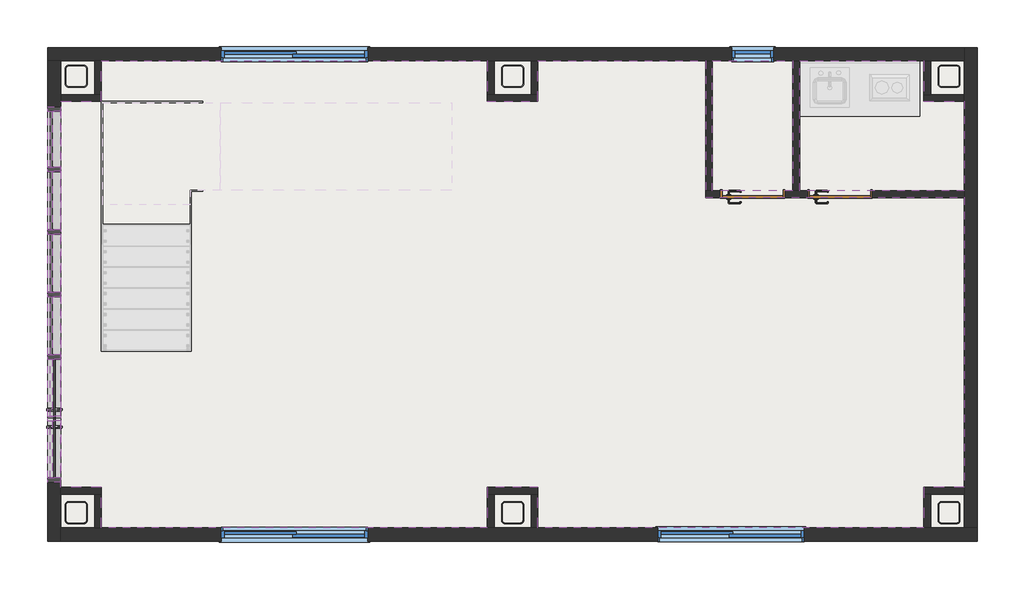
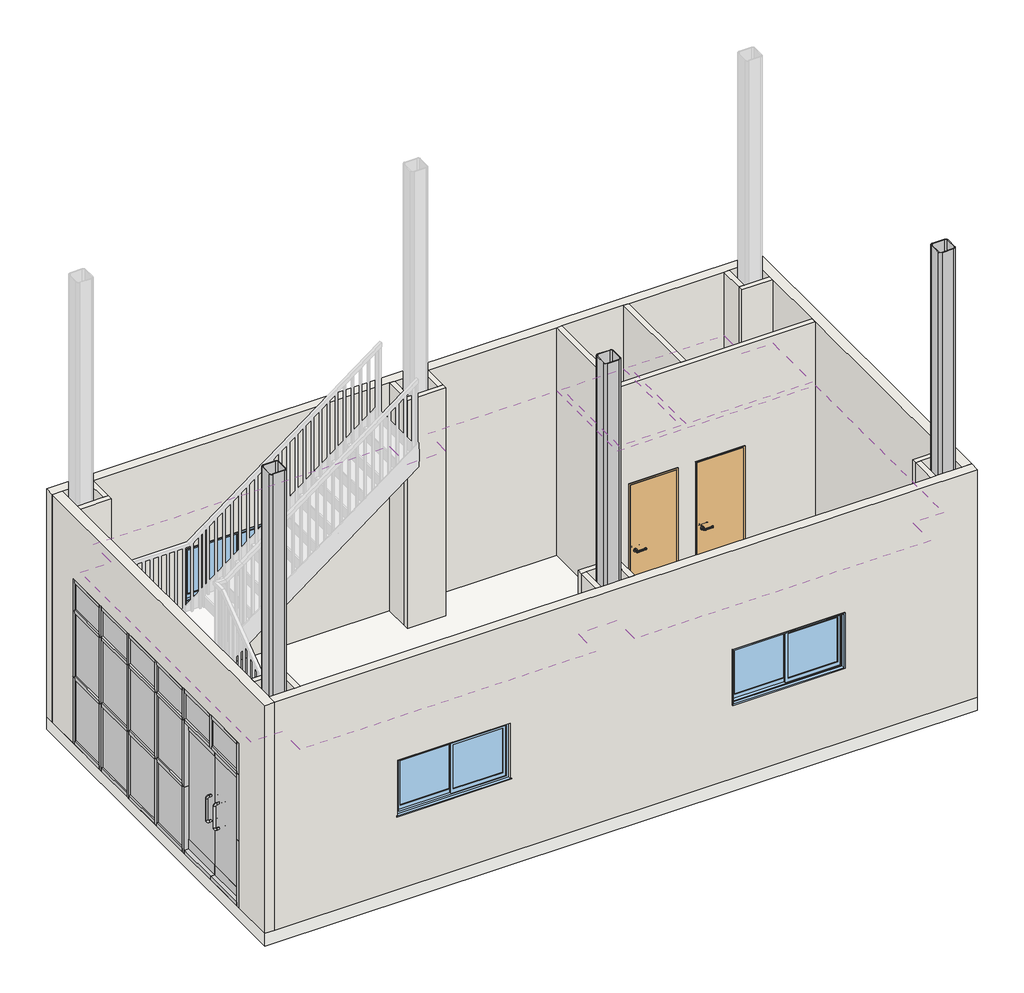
# One storey, part 1 of 2: 41 members, 21 walls, 15 plates, 4 windows, 3 columns, 3 coverings, 2 doors, 1 slab.
"""IFC4 building model written with IfcOpenShell, lengths in millimetres."""

from ifc_helpers import new_model, si_unit, frame, origin, origin_with_axes, place, context, project, spatial, polyline, outline, extrude, faceted_brep, transform, mapped, element, save
from components import hss250x250x12_d809ddac, w700h2000_2a992a34, member_50x150mm_a0e2e66f, member_50x150mm_a9c68ae1, member_50x150mm_62bde7b1, member_50x150mm_43fc7b63, member_50x150mm_86d21357, member_50x150mm_22f77a7a, member_50x150mm_8a69f4a4, member_50x150mm_b3666dbd, member_50x150mm_1a36453b, member_50x150mm_5157afd8, member_50x150mm_37d6beb1, member_50x150mm_f4543df4, plate_bb3d00ed, plate_81b017a3, plate_3e90128c, plate_3f01d40e, plate_8868ab24, plate_6b8e4332, plate_e66cd56a, plate_cf903d6a, w0400h0800_0b9f01bb, w1600h0800_d7cd19be

model = new_model("IFC4")

# Units and contexts
model_context = context("Model", 3, world=origin())
ifc_project = project(units=[si_unit("LENGTHUNIT", "METRE", prefix="MILLI")], contexts=[model_context])

# Site, building, storey
site = spatial("IfcSite", under=ifc_project)
building = spatial("IfcBuilding", under=site)
storey = spatial("IfcBuildingStorey", under=building, Name="1階", Elevation=200.0)

# Columns
placement = place(None, origin())
hss250x250x12_shape = hss250x250x12_d809ddac(model_context)
element("IfcColumn", 1, ObjectType="正方型鋼管-柱 : HSS250x250x12", at=placement, inside=storey, context=model_context, shape_type="MappedRepresentation", body=[
    mapped(hss250x250x12_shape, transform((-5047.3880564, -2413.9617267, 0.0), x_axis=(-1.0, 0.0, 0.0), y_axis=(0.0, -1.0, 0.0), z_axis=(0.0, 0.0, 1.0))),
])
element("IfcColumn", 2, ObjectType="正方型鋼管-柱 : HSS250x250x12", at=placement, inside=storey, context=model_context, shape_type="MappedRepresentation", body=[
    mapped(hss250x250x12_shape, transform((-47.3880564, -2413.9617267, 0.0), x_axis=(-1.0, 0.0, 0.0), y_axis=(0.0, -1.0, 0.0), z_axis=(0.0, 0.0, 1.0))),
])
element("IfcColumn", 3, ObjectType="正方型鋼管-柱 : HSS250x250x12", at=placement, inside=storey, context=model_context, shape_type="MappedRepresentation", body=[
    mapped(hss250x250x12_shape, transform((4952.6119436, -2413.9617267, 0.0), x_axis=(-1.0, 0.0, 0.0), y_axis=(0.0, -1.0, 0.0), z_axis=(0.0, 0.0, 1.0))),
])

# Coverings
element("IfcCovering", 4, ObjectType="グリッド 600x600mm", at=placement, inside=storey, context=model_context, shape_type="SweptSolid", body=[
    extrude(outline(polyline([(-4757.8880564, 2296.5382733), (-4757.8880564, 2761.0382733), (-336.8880564, 2761.0382733), (-336.8880564, 2296.5382733), (242.1119436, 2296.5382733), (242.1119436, 2761.0382733), (2163.1119436, 2761.0382733), (2163.1119436, 1196.5382733), (5127.6119436, 1196.5382733), (5127.6119436, -2124.4617267), (4663.1119436, -2124.4617267), (4663.1119436, -2588.9617267), (242.1119436, -2588.9617267), (242.1119436, -2124.4617267), (-336.8880564, -2124.4617267), (-336.8880564, -2588.9617267), (-4757.8880564, -2588.9617267), (-4757.8880564, -2124.4617267), (-5222.3880564, -2124.4617267), (-5222.3880564, 2296.5382733), (-4757.8880564, 2296.5382733)])), frame((0.0, 0.0, 2800.0), z_axis=(0.0, 0.0, 1.0), x_axis=(1.0, 0.0, 0.0)), (0.0, 0.0, 1.0), 52.0),
])
element("IfcCovering", 5, ObjectType="グリッド 600x600mm", at=placement, inside=storey, context=model_context, shape_type="SweptSolid", body=[
    extrude(outline(polyline([(2242.1119436, 2761.0382733), (3163.1119436, 2761.0382733), (3163.1119436, 1275.5382733), (2242.1119436, 1275.5382733), (2242.1119436, 2761.0382733)])), frame((0.0, 0.0, 2800.0), z_axis=(0.0, 0.0, 1.0), x_axis=(1.0, 0.0, 0.0)), (0.0, 0.0, 1.0), 52.0),
])
element("IfcCovering", 6, ObjectType="グリッド 600x600mm", at=placement, inside=storey, context=model_context, shape_type="SweptSolid", body=[
    extrude(outline(polyline([(3242.1119436, 1275.5382733), (3242.1119436, 2761.0382733), (4663.1119436, 2761.0382733), (4663.1119436, 2296.5382733), (5127.6119436, 2296.5382733), (5127.6119436, 1275.5382733), (3242.1119436, 1275.5382733)])), frame((0.0, 0.0, 2800.0), z_axis=(0.0, 0.0, 1.0), x_axis=(1.0, 0.0, 0.0)), (0.0, 0.0, 1.0), 52.0),
])

# Doors
w700h2000_shape = w700h2000_2a992a34(model_context)
element("IfcDoor", 7, ObjectType="片開き : w700h2000", at=placement, inside=storey, context=model_context, shape_type="MappedRepresentation", body=[
    mapped(w700h2000_shape, transform((2702.6119436, 1236.0382733, 200.0), x_axis=(1.0, 0.0, 0.0), y_axis=(0.0, 1.0, 0.0), z_axis=(0.0, 0.0, 1.0))),
])
element("IfcDoor", 8, ObjectType="片開き : w700h2000", at=placement, inside=storey, context=model_context, shape_type="MappedRepresentation", body=[
    mapped(w700h2000_shape, transform((3702.6119436, 1236.0382733, 200.0), x_axis=(1.0, 0.0, 0.0), y_axis=(0.0, 1.0, 0.0), z_axis=(0.0, 0.0, 1.0))),
])

# Members
member_50x150mm_shape = member_50x150mm_a0e2e66f(model_context)
element("IfcMember", 9, ObjectType="長方形マリオン : 50x150mm", at=placement, inside=storey, context=model_context, shape_type="MappedRepresentation", body=[
    mapped(member_50x150mm_shape, transform((-5297.3880564, 2186.0382733, 2800.0), x_axis=(0.0, 0.0, 1.0), y_axis=(1.0, 0.0, 0.0), z_axis=(0.0, 1.0, 0.0))),
])
member_50x150mm_2_shape = member_50x150mm_a9c68ae1(model_context)
element("IfcMember", 10, ObjectType="長方形マリオン : 50x150mm", at=placement, inside=storey, context=model_context, shape_type="MappedRepresentation", body=[
    mapped(member_50x150mm_2_shape, transform((-5297.3880564, 86.0382733, 200.0), x_axis=(0.0, 1.0, 0.0), y_axis=(1.0, 0.0, 0.0), z_axis=(0.0, 0.0, -1.0))),
])
element("IfcMember", 11, ObjectType="長方形マリオン : 50x150mm", at=placement, inside=storey, context=model_context, shape_type="MappedRepresentation", body=[
    mapped(member_50x150mm_2_shape, transform((-5297.3880564, 1519.3716066, 200.0), x_axis=(0.0, 1.0, 0.0), y_axis=(1.0, 0.0, 0.0), z_axis=(0.0, 0.0, -1.0))),
])
element("IfcMember", 12, ObjectType="長方形マリオン : 50x150mm", at=placement, inside=storey, context=model_context, shape_type="MappedRepresentation", body=[
    mapped(member_50x150mm_2_shape, transform((-5297.3880564, 802.7049399, 200.0), x_axis=(0.0, 1.0, 0.0), y_axis=(1.0, 0.0, 0.0), z_axis=(0.0, 0.0, -1.0))),
])
element("IfcMember", 13, ObjectType="長方形マリオン : 50x150mm", at=placement, inside=storey, context=model_context, shape_type="MappedRepresentation", body=[
    mapped(member_50x150mm_2_shape, transform((-5297.3880564, -630.6283934, 200.0), x_axis=(0.0, 1.0, 0.0), y_axis=(1.0, 0.0, 0.0), z_axis=(0.0, 0.0, -1.0))),
])
member_50x150mm_3_shape = member_50x150mm_62bde7b1(model_context)
element("IfcMember", 14, ObjectType="長方形マリオン : 50x150mm", at=placement, inside=storey, context=model_context, shape_type="MappedRepresentation", body=[
    mapped(member_50x150mm_3_shape, transform((-5297.3880564, 2186.0382733, 2300.0), x_axis=(0.0, 0.0, 1.0), y_axis=(1.0, 0.0, 0.0), z_axis=(0.0, 1.0, 0.0))),
])
element("IfcMember", 15, ObjectType="長方形マリオン : 50x150mm", at=placement, inside=storey, context=model_context, shape_type="MappedRepresentation", body=[
    mapped(member_50x150mm_3_shape, transform((-5297.3880564, 2186.0382733, 1250.0), x_axis=(0.0, 0.0, 1.0), y_axis=(1.0, 0.0, 0.0), z_axis=(0.0, 1.0, 0.0))),
])
member_50x150mm_4_shape = member_50x150mm_43fc7b63(model_context)
element("IfcMember", 16, ObjectType="長方形マリオン : 50x150mm", at=placement, inside=storey, context=model_context, shape_type="MappedRepresentation", body=[
    mapped(member_50x150mm_4_shape, transform((-5297.3880564, 777.7049399, 2300.0), x_axis=(0.0, 0.0, 1.0), y_axis=(1.0, 0.0, 0.0), z_axis=(0.0, 1.0, 0.0))),
])
element("IfcMember", 17, ObjectType="長方形マリオン : 50x150mm", at=placement, inside=storey, context=model_context, shape_type="MappedRepresentation", body=[
    mapped(member_50x150mm_4_shape, transform((-5297.3880564, 1494.3716066, 2300.0), x_axis=(0.0, 0.0, 1.0), y_axis=(1.0, 0.0, 0.0), z_axis=(0.0, 1.0, 0.0))),
])
element("IfcMember", 18, ObjectType="長方形マリオン : 50x150mm", at=placement, inside=storey, context=model_context, shape_type="MappedRepresentation", body=[
    mapped(member_50x150mm_4_shape, transform((-5297.3880564, 61.0382733, 2300.0), x_axis=(0.0, 0.0, 1.0), y_axis=(1.0, 0.0, 0.0), z_axis=(0.0, 1.0, 0.0))),
])
element("IfcMember", 19, ObjectType="長方形マリオン : 50x150mm", at=placement, inside=storey, context=model_context, shape_type="MappedRepresentation", body=[
    mapped(member_50x150mm_4_shape, transform((-5297.3880564, 777.7049399, 1250.0), x_axis=(0.0, 0.0, 1.0), y_axis=(1.0, 0.0, 0.0), z_axis=(0.0, 1.0, 0.0))),
])
element("IfcMember", 20, ObjectType="長方形マリオン : 50x150mm", at=placement, inside=storey, context=model_context, shape_type="MappedRepresentation", body=[
    mapped(member_50x150mm_4_shape, transform((-5297.3880564, 1494.3716066, 1250.0), x_axis=(0.0, 0.0, 1.0), y_axis=(1.0, 0.0, 0.0), z_axis=(0.0, 1.0, 0.0))),
])
element("IfcMember", 21, ObjectType="長方形マリオン : 50x150mm", at=placement, inside=storey, context=model_context, shape_type="MappedRepresentation", body=[
    mapped(member_50x150mm_4_shape, transform((-5297.3880564, 61.0382733, 1250.0), x_axis=(0.0, 0.0, 1.0), y_axis=(1.0, 0.0, 0.0), z_axis=(0.0, 1.0, 0.0))),
])
member_50x150mm_5_shape = member_50x150mm_86d21357(model_context)
element("IfcMember", 22, ObjectType="長方形マリオン : 50x150mm", at=placement, inside=storey, context=model_context, shape_type="MappedRepresentation", body=[
    mapped(member_50x150mm_5_shape, transform((-5297.3880564, 111.0382733, 200.0), x_axis=(0.0, 0.0, -1.0), y_axis=(1.0, 0.0, 0.0), z_axis=(0.0, -1.0, 0.0))),
])
element("IfcMember", 23, ObjectType="長方形マリオン : 50x150mm", at=placement, inside=storey, context=model_context, shape_type="MappedRepresentation", body=[
    mapped(member_50x150mm_5_shape, transform((-5297.3880564, 827.7049399, 200.0), x_axis=(0.0, 0.0, -1.0), y_axis=(1.0, 0.0, 0.0), z_axis=(0.0, -1.0, 0.0))),
])
element("IfcMember", 24, ObjectType="長方形マリオン : 50x150mm", at=placement, inside=storey, context=model_context, shape_type="MappedRepresentation", body=[
    mapped(member_50x150mm_5_shape, transform((-5297.3880564, -605.6283934, 200.0), x_axis=(0.0, 0.0, -1.0), y_axis=(1.0, 0.0, 0.0), z_axis=(0.0, -1.0, 0.0))),
])
element("IfcMember", 25, ObjectType="長方形マリオン : 50x150mm", at=placement, inside=storey, context=model_context, shape_type="MappedRepresentation", body=[
    mapped(member_50x150mm_shape, transform((-5297.3880564, 1544.3716066, 200.0), x_axis=(0.0, 0.0, -1.0), y_axis=(1.0, 0.0, 0.0), z_axis=(0.0, -1.0, 0.0))),
])
element("IfcMember", 26, ObjectType="長方形マリオン : 50x150mm", at=placement, inside=storey, context=model_context, shape_type="MappedRepresentation", body=[
    mapped(member_50x150mm_5_shape, transform((-5297.3880564, 61.0382733, 2800.0), x_axis=(0.0, 0.0, 1.0), y_axis=(1.0, 0.0, 0.0), z_axis=(0.0, 1.0, 0.0))),
])
element("IfcMember", 27, ObjectType="長方形マリオン : 50x150mm", at=placement, inside=storey, context=model_context, shape_type="MappedRepresentation", body=[
    mapped(member_50x150mm_5_shape, transform((-5297.3880564, 1494.3716066, 2800.0), x_axis=(0.0, 0.0, 1.0), y_axis=(1.0, 0.0, 0.0), z_axis=(0.0, 1.0, 0.0))),
])
element("IfcMember", 28, ObjectType="長方形マリオン : 50x150mm", at=placement, inside=storey, context=model_context, shape_type="MappedRepresentation", body=[
    mapped(member_50x150mm_5_shape, transform((-5297.3880564, 777.7049399, 2800.0), x_axis=(0.0, 0.0, 1.0), y_axis=(1.0, 0.0, 0.0), z_axis=(0.0, 1.0, 0.0))),
])
member_50x150mm_6_shape = member_50x150mm_22f77a7a(model_context)
element("IfcMember", 29, ObjectType="長方形マリオン : 50x150mm", at=placement, inside=storey, context=model_context, shape_type="MappedRepresentation", body=[
    mapped(member_50x150mm_6_shape, transform((-5297.3880564, 86.0382733, 2300.0), x_axis=(0.0, 1.0, 0.0), y_axis=(1.0, 0.0, 0.0), z_axis=(0.0, 0.0, -1.0))),
])
element("IfcMember", 30, ObjectType="長方形マリオン : 50x150mm", at=placement, inside=storey, context=model_context, shape_type="MappedRepresentation", body=[
    mapped(member_50x150mm_6_shape, transform((-5297.3880564, 1519.3716066, 2300.0), x_axis=(0.0, 1.0, 0.0), y_axis=(1.0, 0.0, 0.0), z_axis=(0.0, 0.0, -1.0))),
])
element("IfcMember", 31, ObjectType="長方形マリオン : 50x150mm", at=placement, inside=storey, context=model_context, shape_type="MappedRepresentation", body=[
    mapped(member_50x150mm_6_shape, transform((-5297.3880564, 802.7049399, 2300.0), x_axis=(0.0, 1.0, 0.0), y_axis=(1.0, 0.0, 0.0), z_axis=(0.0, 0.0, -1.0))),
])
element("IfcMember", 32, ObjectType="長方形マリオン : 50x150mm", at=placement, inside=storey, context=model_context, shape_type="MappedRepresentation", body=[
    mapped(member_50x150mm_6_shape, transform((-5297.3880564, -630.6283934, 2300.0), x_axis=(0.0, 1.0, 0.0), y_axis=(1.0, 0.0, 0.0), z_axis=(0.0, 0.0, -1.0))),
])
element("IfcMember", 33, ObjectType="長方形マリオン : 50x150mm", at=placement, inside=storey, context=model_context, shape_type="MappedRepresentation", body=[
    mapped(member_50x150mm_2_shape, transform((-5297.3880564, 86.0382733, 1250.0), x_axis=(0.0, 1.0, 0.0), y_axis=(1.0, 0.0, 0.0), z_axis=(0.0, 0.0, -1.0))),
])
element("IfcMember", 34, ObjectType="長方形マリオン : 50x150mm", at=placement, inside=storey, context=model_context, shape_type="MappedRepresentation", body=[
    mapped(member_50x150mm_2_shape, transform((-5297.3880564, 1519.3716066, 1250.0), x_axis=(0.0, 1.0, 0.0), y_axis=(1.0, 0.0, 0.0), z_axis=(0.0, 0.0, -1.0))),
])
element("IfcMember", 35, ObjectType="長方形マリオン : 50x150mm", at=placement, inside=storey, context=model_context, shape_type="MappedRepresentation", body=[
    mapped(member_50x150mm_2_shape, transform((-5297.3880564, 802.7049399, 1250.0), x_axis=(0.0, 1.0, 0.0), y_axis=(1.0, 0.0, 0.0), z_axis=(0.0, 0.0, -1.0))),
])
element("IfcMember", 36, ObjectType="長方形マリオン : 50x150mm", at=placement, inside=storey, context=model_context, shape_type="MappedRepresentation", body=[
    mapped(member_50x150mm_2_shape, transform((-5297.3880564, -630.6283934, 1250.0), x_axis=(0.0, 1.0, 0.0), y_axis=(1.0, 0.0, 0.0), z_axis=(0.0, 0.0, -1.0))),
])
member_50x150mm_7_shape = member_50x150mm_8a69f4a4(model_context)
element("IfcMember", 37, ObjectType="長方形マリオン : 50x150mm", at=placement, inside=storey, context=model_context, shape_type="MappedRepresentation", body=[
    mapped(member_50x150mm_7_shape, transform((-5297.3880564, -1334.7950601, 2275.0), x_axis=(0.0, 1.0, 0.0), y_axis=(1.0, 0.0, 0.0), z_axis=(0.0, 0.0, -1.0))),
])
member_50x150mm_8_shape = member_50x150mm_b3666dbd(model_context)
element("IfcMember", 38, ObjectType="長方形マリオン : 50x150mm", at=placement, inside=storey, context=model_context, shape_type="MappedRepresentation", body=[
    mapped(member_50x150mm_8_shape, transform((-5297.3880564, -2063.9617267, 2800.0), x_axis=(0.0, -1.0, 0.0), y_axis=(1.0, 0.0, 0.0), z_axis=(0.0, 0.0, 1.0))),
])
member_50x150mm_9_shape = member_50x150mm_1a36453b(model_context)
element("IfcMember", 39, ObjectType="長方形マリオン : 50x150mm", at=placement, inside=storey, context=model_context, shape_type="MappedRepresentation", body=[
    mapped(member_50x150mm_9_shape, transform((-5297.3880564, 2236.0382733, 200.0), x_axis=(0.0, 1.0, 0.0), y_axis=(1.0, 0.0, 0.0), z_axis=(0.0, 0.0, -1.0))),
])
element("IfcMember", 40, ObjectType="長方形マリオン : 50x150mm", at=placement, inside=storey, context=model_context, shape_type="MappedRepresentation", body=[
    mapped(member_50x150mm_8_shape, transform((-5297.3880564, 2236.0382733, 2300.0), x_axis=(0.0, 1.0, 0.0), y_axis=(1.0, 0.0, 0.0), z_axis=(0.0, 0.0, -1.0))),
])
element("IfcMember", 41, ObjectType="長方形マリオン : 50x150mm", at=placement, inside=storey, context=model_context, shape_type="MappedRepresentation", body=[
    mapped(member_50x150mm_9_shape, transform((-5297.3880564, 2236.0382733, 1250.0), x_axis=(0.0, 1.0, 0.0), y_axis=(1.0, 0.0, 0.0), z_axis=(0.0, 0.0, -1.0))),
])
element("IfcMember", 42, ObjectType="長方形マリオン : 50x150mm", at=placement, inside=storey, context=model_context, shape_type="MappedRepresentation", body=[
    mapped(member_50x150mm_9_shape, transform((-5297.3880564, -2063.9617267, 2300.0), x_axis=(0.0, -1.0, 0.0), y_axis=(1.0, 0.0, 0.0), z_axis=(0.0, 0.0, 1.0))),
])
element("IfcMember", 43, ObjectType="長方形マリオン : 50x150mm", at=placement, inside=storey, context=model_context, shape_type="MappedRepresentation", body=[
    mapped(member_50x150mm_9_shape, transform((-5297.3880564, -2063.9617267, 1250.0), x_axis=(0.0, -1.0, 0.0), y_axis=(1.0, 0.0, 0.0), z_axis=(0.0, 0.0, 1.0))),
])
member_50x150mm_10_shape = member_50x150mm_5157afd8(model_context)
element("IfcMember", 44, ObjectType="長方形マリオン : 50x150mm", at=placement, inside=storey, context=model_context, shape_type="MappedRepresentation", body=[
    mapped(member_50x150mm_10_shape, transform((-5297.3880564, -2013.9617267, 200.0), x_axis=(0.0, 0.0, -1.0), y_axis=(1.0, 0.0, 0.0), z_axis=(0.0, -1.0, 0.0))),
])
member_50x150mm_11_shape = member_50x150mm_37d6beb1(model_context)
element("IfcMember", 45, ObjectType="長方形マリオン : 50x150mm", at=placement, inside=storey, context=model_context, shape_type="MappedRepresentation", body=[
    mapped(member_50x150mm_11_shape, transform((-5297.3880564, -1359.7950601, 2300.0), x_axis=(0.0, 0.0, 1.0), y_axis=(1.0, 0.0, 0.0), z_axis=(0.0, 1.0, 0.0))),
])
element("IfcMember", 46, ObjectType="長方形マリオン : 50x150mm", at=placement, inside=storey, context=model_context, shape_type="MappedRepresentation", body=[
    mapped(member_50x150mm_11_shape, transform((-5297.3880564, -655.6283934, 2300.0), x_axis=(0.0, 0.0, 1.0), y_axis=(1.0, 0.0, 0.0), z_axis=(0.0, 1.0, 0.0))),
])
element("IfcMember", 47, ObjectType="長方形マリオン : 50x150mm", at=placement, inside=storey, context=model_context, shape_type="MappedRepresentation", body=[
    mapped(member_50x150mm_10_shape, transform((-5297.3880564, -1334.7950601, 200.0), x_axis=(0.0, 0.0, -1.0), y_axis=(1.0, 0.0, 0.0), z_axis=(0.0, -1.0, 0.0))),
])
member_50x150mm_12_shape = member_50x150mm_f4543df4(model_context)
element("IfcMember", 48, ObjectType="長方形マリオン : 50x150mm", at=placement, inside=storey, context=model_context, shape_type="MappedRepresentation", body=[
    mapped(member_50x150mm_12_shape, transform((-5297.3880564, -655.6283934, 2800.0), x_axis=(0.0, 0.0, 1.0), y_axis=(1.0, 0.0, 0.0), z_axis=(0.0, 1.0, 0.0))),
])
element("IfcMember", 49, ObjectType="長方形マリオン : 50x150mm", at=placement, inside=storey, context=model_context, shape_type="MappedRepresentation", body=[
    mapped(member_50x150mm_12_shape, transform((-5297.3880564, -1359.7950601, 2800.0), x_axis=(0.0, 0.0, 1.0), y_axis=(1.0, 0.0, 0.0), z_axis=(0.0, 1.0, 0.0))),
])

# Plates
plate_shape = plate_bb3d00ed(model_context)
element("IfcPlate", 50, ObjectType="システム パネル1 : ガラス", at=placement, inside=storey, context=model_context, shape_type="MappedRepresentation", body=[
    mapped(plate_shape, transform((-5297.3880564, 444.3716066, 250.0), x_axis=(0.0, 1.0, 0.0), y_axis=(-1.0, 0.0, 0.0), z_axis=(0.0, 0.0, 1.0))),
])
element("IfcPlate", 51, ObjectType="システム パネル1 : ガラス", at=placement, inside=storey, context=model_context, shape_type="MappedRepresentation", body=[
    mapped(plate_shape, transform((-5297.3880564, 1161.0382733, 250.0), x_axis=(0.0, 1.0, 0.0), y_axis=(-1.0, 0.0, 0.0), z_axis=(0.0, 0.0, 1.0))),
])
element("IfcPlate", 52, ObjectType="システム パネル1 : ガラス", at=placement, inside=storey, context=model_context, shape_type="MappedRepresentation", body=[
    mapped(plate_shape, transform((-5297.3880564, -272.2950601, 250.0), x_axis=(0.0, 1.0, 0.0), y_axis=(-1.0, 0.0, 0.0), z_axis=(0.0, 0.0, 1.0))),
])
plate_2_shape = plate_81b017a3(model_context)
element("IfcPlate", 53, ObjectType="システム パネル1 : ガラス", at=placement, inside=storey, context=model_context, shape_type="MappedRepresentation", body=[
    mapped(plate_2_shape, transform((-5297.3880564, 1865.2049399, 250.0), x_axis=(0.0, 1.0, 0.0), y_axis=(-1.0, 0.0, 0.0), z_axis=(0.0, 0.0, 1.0))),
])
plate_3_shape = plate_3e90128c(model_context)
element("IfcPlate", 54, ObjectType="システム パネル1 : ガラス", at=placement, inside=storey, context=model_context, shape_type="MappedRepresentation", body=[
    mapped(plate_3_shape, transform((-5297.3880564, 1865.2049399, 2325.0), x_axis=(0.0, 1.0, 0.0), y_axis=(-1.0, 0.0, 0.0), z_axis=(0.0, 0.0, 1.0))),
])
plate_4_shape = plate_3f01d40e(model_context)
element("IfcPlate", 55, ObjectType="システム パネル1 : ガラス", at=placement, inside=storey, context=model_context, shape_type="MappedRepresentation", body=[
    mapped(plate_4_shape, transform((-5297.3880564, -272.2950601, 2325.0), x_axis=(0.0, 1.0, 0.0), y_axis=(-1.0, 0.0, 0.0), z_axis=(0.0, 0.0, 1.0))),
])
element("IfcPlate", 56, ObjectType="システム パネル1 : ガラス", at=placement, inside=storey, context=model_context, shape_type="MappedRepresentation", body=[
    mapped(plate_4_shape, transform((-5297.3880564, 444.3716066, 2325.0), x_axis=(0.0, 1.0, 0.0), y_axis=(-1.0, 0.0, 0.0), z_axis=(0.0, 0.0, 1.0))),
])
element("IfcPlate", 57, ObjectType="システム パネル1 : ガラス", at=placement, inside=storey, context=model_context, shape_type="MappedRepresentation", body=[
    mapped(plate_4_shape, transform((-5297.3880564, 1161.0382733, 2325.0), x_axis=(0.0, 1.0, 0.0), y_axis=(-1.0, 0.0, 0.0), z_axis=(0.0, 0.0, 1.0))),
])
plate_5_shape = plate_8868ab24(model_context)
element("IfcPlate", 58, ObjectType="システム パネル1 : ガラス", at=placement, inside=storey, context=model_context, shape_type="MappedRepresentation", body=[
    mapped(plate_5_shape, transform((-5297.3880564, -272.2950601, 1275.0), x_axis=(0.0, 1.0, 0.0), y_axis=(-1.0, 0.0, 0.0), z_axis=(0.0, 0.0, 1.0))),
])
element("IfcPlate", 59, ObjectType="システム パネル1 : ガラス", at=placement, inside=storey, context=model_context, shape_type="MappedRepresentation", body=[
    mapped(plate_5_shape, transform((-5297.3880564, 444.3716066, 1275.0), x_axis=(0.0, 1.0, 0.0), y_axis=(-1.0, 0.0, 0.0), z_axis=(0.0, 0.0, 1.0))),
])
element("IfcPlate", 60, ObjectType="システム パネル1 : ガラス", at=placement, inside=storey, context=model_context, shape_type="MappedRepresentation", body=[
    mapped(plate_5_shape, transform((-5297.3880564, 1161.0382733, 1275.0), x_axis=(0.0, 1.0, 0.0), y_axis=(-1.0, 0.0, 0.0), z_axis=(0.0, 0.0, 1.0))),
])
plate_6_shape = plate_6b8e4332(model_context)
element("IfcPlate", 61, ObjectType="システム パネル1 : ガラス", at=placement, inside=storey, context=model_context, shape_type="MappedRepresentation", body=[
    mapped(plate_6_shape, transform((-5297.3880564, 1865.2049399, 1275.0), x_axis=(0.0, 1.0, 0.0), y_axis=(-1.0, 0.0, 0.0), z_axis=(0.0, 0.0, 1.0))),
])
plate_7_shape = plate_e66cd56a(model_context)
element("IfcPlate", 62, ObjectType="両開き - ヒンジ2 : ガラス パネル", at=placement, inside=storey, context=model_context, shape_type="MappedRepresentation", body=[
    mapped(plate_7_shape, transform((-5297.3880564, -1334.7950601, 250.0), x_axis=(0.0, 1.0, 0.0), y_axis=(-1.0, 0.0, 0.0), z_axis=(0.0, 0.0, 1.0))),
])
plate_8_shape = plate_cf903d6a(model_context)
element("IfcPlate", 63, ObjectType="システム パネル1 : ガラス", at=placement, inside=storey, context=model_context, shape_type="MappedRepresentation", body=[
    mapped(plate_8_shape, transform((-5297.3880564, -1686.8783934, 2325.0), x_axis=(0.0, 1.0, 0.0), y_axis=(-1.0, 0.0, 0.0), z_axis=(0.0, 0.0, 1.0))),
])
element("IfcPlate", 64, ObjectType="システム パネル1 : ガラス", at=placement, inside=storey, context=model_context, shape_type="MappedRepresentation", body=[
    mapped(plate_8_shape, transform((-5297.3880564, -982.7117267, 2325.0), x_axis=(0.0, 1.0, 0.0), y_axis=(-1.0, 0.0, 0.0), z_axis=(0.0, 0.0, 1.0))),
])

# Slab
element("IfcSlab", 65, ObjectType="一般 200 mm", at=placement, inside=storey, context=model_context, shape_type="SweptSolid", body=[
    extrude(outline(polyline([(5277.6119436, 2911.0382733), (5277.6119436, -2738.9617267), (-5372.3880564, -2738.9617267), (-5372.3880564, 2911.0382733), (5277.6119436, 2911.0382733)])), origin_with_axes(), (0.0, 0.0, 1.0), 200.0),
])

# Walls
element("IfcWall", 66, ObjectType="標準-150mm", at=placement, inside=storey, context=model_context, shape_type="Brep", body=[
    faceted_brep([(-5372.3880564, 2761.0382733, 200.0), (-5222.3880564, 2761.0382733, 200.0), (-4836.8880564, 2761.0382733, 200.0), (-4757.8880564, 2761.0382733, 200.0), (-336.8880564, 2761.0382733, 200.0), (-257.8880564, 2761.0382733, 200.0), (163.1119436, 2761.0382733, 200.0), (242.1119436, 2761.0382733, 200.0), (2163.1119436, 2761.0382733, 200.0), (2242.1119436, 2761.0382733, 200.0), (3163.1119436, 2761.0382733, 200.0), (3242.1119436, 2761.0382733, 200.0), (4663.1119436, 2761.0382733, 200.0), (4742.1119436, 2761.0382733, 200.0), (5127.6119436, 2761.0382733, 200.0), (5127.6119436, 2761.0382733, 3800.0), (4742.1119436, 2761.0382733, 3800.0), (4663.1119436, 2761.0382733, 3800.0), (3242.1119436, 2761.0382733, 3800.0), (3163.1119436, 2761.0382733, 3800.0), (2242.1119436, 2761.0382733, 3800.0), (2163.1119436, 2761.0382733, 3800.0), (242.1119436, 2761.0382733, 3800.0), (163.1119436, 2761.0382733, 3800.0), (-257.8880564, 2761.0382733, 3800.0), (-336.8880564, 2761.0382733, 3800.0), (-4757.8880564, 2761.0382733, 3800.0), (-4836.8880564, 2761.0382733, 3800.0), (-5222.3880564, 2761.0382733, 3800.0), (-5372.3880564, 2761.0382733, 3800.0), (-1707.3880564, 2761.0382733, 2240.0), (-1707.3880564, 2761.0382733, 1360.0), (-3387.3880564, 2761.0382733, 1360.0), (-3387.3880564, 2761.0382733, 2240.0), (2942.6119436, 2761.0382733, 2240.0), (2942.6119436, 2761.0382733, 1360.0), (2462.6119436, 2761.0382733, 1360.0), (2462.6119436, 2761.0382733, 2240.0), (-5372.3880564, 2911.0382733, 200.0), (-5372.3880564, 2911.0382733, 3800.0), (5127.6119436, 2911.0382733, 3800.0), (5127.6119436, 2911.0382733, 200.0), (-1707.3880564, 2911.0382733, 2240.0), (-3387.3880564, 2911.0382733, 2240.0), (-3387.3880564, 2911.0382733, 1360.0), (-1707.3880564, 2911.0382733, 1360.0), (2942.6119436, 2911.0382733, 2240.0), (2462.6119436, 2911.0382733, 2240.0), (2462.6119436, 2911.0382733, 1360.0), (2942.6119436, 2911.0382733, 1360.0)], [[[0, 1, 2, 3, 4, 5, 6, 7, 8, 9, 10, 11, 12, 13, 14, 15, 16, 17, 18, 19, 20, 21, 22, 23, 24, 25, 26, 27, 28, 29], [30, 31, 32, 33], [34, 35, 36, 37]], [[38, 39, 40, 41], [42, 43, 44, 45], [46, 47, 48, 49]], [[14, 13, 12, 11, 10, 9, 8, 7, 6, 5, 4, 3, 2, 1, 0, 38, 41]], [[29, 28, 27, 26, 25, 24, 23, 22, 21, 20, 19, 18, 17, 16, 15, 40, 39]], [[0, 29, 39, 38]], [[15, 14, 41, 40]], [[31, 30, 42, 45]], [[32, 31, 45, 44]], [[33, 32, 44, 43]], [[30, 33, 43, 42]], [[35, 34, 46, 49]], [[36, 35, 49, 48]], [[37, 36, 48, 47]], [[34, 37, 47, 46]]]),
])
element("IfcWall", 67, ObjectType="標準-150mm", at=placement, inside=storey, context=model_context, shape_type="Brep", body=[
    faceted_brep([(-5222.3880564, 2761.0382733, 3800.0), (-5222.3880564, 2375.5382733, 3800.0), (-5222.3880564, 2296.5382733, 3800.0), (-5222.3880564, -2124.4617267, 3800.0), (-5222.3880564, -2203.4617267, 3800.0), (-5222.3880564, -2588.9617267, 3800.0), (-5222.3880564, -2738.9617267, 3800.0), (-5222.3880564, -2738.9617267, 200.0), (-5222.3880564, -2588.9617267, 200.0), (-5222.3880564, -2203.4617267, 200.0), (-5222.3880564, -2124.4617267, 200.0), (-5222.3880564, -2063.9617267, 200.0), (-5222.3880564, -2063.9617267, 2800.0), (-5222.3880564, 2236.0382733, 2800.0), (-5222.3880564, 2236.0382733, 200.0), (-5222.3880564, 2296.5382733, 200.0), (-5222.3880564, 2375.5382733, 200.0), (-5222.3880564, 2761.0382733, 200.0), (-5372.3880564, -2738.9617267, 3800.0), (-5372.3880564, 2761.0382733, 3800.0), (-5372.3880564, 2761.0382733, 200.0), (-5372.3880564, 2236.0382733, 200.0), (-5372.3880564, 2236.0382733, 2800.0), (-5372.3880564, -2063.9617267, 2800.0), (-5372.3880564, -2063.9617267, 200.0), (-5372.3880564, -2738.9617267, 200.0)], [[[0, 1, 2, 3, 4, 5, 6, 7, 8, 9, 10, 11, 12, 13, 14, 15, 16, 17]], [[18, 19, 20, 21, 22, 23, 24, 25]], [[7, 25, 24, 11, 10, 9, 8]], [[20, 17, 16, 15, 14, 21]], [[6, 5, 4, 3, 2, 1, 0, 19, 18]], [[7, 6, 18, 25]], [[0, 17, 20, 19]], [[23, 12, 11, 24]], [[12, 23, 22, 13]], [[13, 22, 21, 14]]]),
])
element("IfcWall", 68, ObjectType="標準-150mm", at=placement, inside=storey, context=model_context, shape_type="Brep", body=[
    faceted_brep([(5277.6119436, -2588.9617267, 200.0), (5127.6119436, -2588.9617267, 200.0), (4742.1119436, -2588.9617267, 200.0), (4663.1119436, -2588.9617267, 200.0), (242.1119436, -2588.9617267, 200.0), (163.1119436, -2588.9617267, 200.0), (-257.8880564, -2588.9617267, 200.0), (-336.8880564, -2588.9617267, 200.0), (-4757.8880564, -2588.9617267, 200.0), (-4836.8880564, -2588.9617267, 200.0), (-5222.3880564, -2588.9617267, 200.0), (-5222.3880564, -2588.9617267, 3800.0), (-4836.8880564, -2588.9617267, 3800.0), (-4757.8880564, -2588.9617267, 3800.0), (-336.8880564, -2588.9617267, 3800.0), (-257.8880564, -2588.9617267, 3800.0), (163.1119436, -2588.9617267, 3800.0), (242.1119436, -2588.9617267, 3800.0), (4663.1119436, -2588.9617267, 3800.0), (4742.1119436, -2588.9617267, 3800.0), (5127.6119436, -2588.9617267, 3800.0), (5277.6119436, -2588.9617267, 3800.0), (-3387.3880564, -2588.9617267, 2240.0), (-3387.3880564, -2588.9617267, 1360.0), (-1707.3880564, -2588.9617267, 1360.0), (-1707.3880564, -2588.9617267, 2240.0), (3292.6119436, -2588.9617267, 2240.0), (1612.6119436, -2588.9617267, 2240.0), (1612.6119436, -2588.9617267, 1360.0), (3292.6119436, -2588.9617267, 1360.0), (5277.6119436, -2738.9617267, 200.0), (5277.6119436, -2738.9617267, 3800.0), (-5222.3880564, -2738.9617267, 3800.0), (-5222.3880564, -2738.9617267, 200.0), (-3387.3880564, -2738.9617267, 2240.0), (-1707.3880564, -2738.9617267, 2240.0), (-1707.3880564, -2738.9617267, 1360.0), (-3387.3880564, -2738.9617267, 1360.0), (3292.6119436, -2738.9617267, 2240.0), (3292.6119436, -2738.9617267, 1360.0), (1612.6119436, -2738.9617267, 1360.0), (1612.6119436, -2738.9617267, 2240.0)], [[[0, 1, 2, 3, 4, 5, 6, 7, 8, 9, 10, 11, 12, 13, 14, 15, 16, 17, 18, 19, 20, 21], [22, 23, 24, 25], [26, 27, 28, 29]], [[30, 31, 32, 33], [34, 35, 36, 37], [38, 39, 40, 41]], [[10, 9, 8, 7, 6, 5, 4, 3, 2, 1, 0, 30, 33]], [[21, 20, 19, 18, 17, 16, 15, 14, 13, 12, 11, 32, 31]], [[0, 21, 31, 30]], [[11, 10, 33, 32]], [[23, 22, 34, 37]], [[24, 23, 37, 36]], [[25, 24, 36, 35]], [[22, 25, 35, 34]], [[39, 38, 26, 29]], [[40, 39, 29, 28]], [[41, 40, 28, 27]], [[38, 41, 27, 26]]]),
])
element("IfcWall", 69, ObjectType="標準-150mm", at=placement, inside=storey, context=model_context, shape_type="Brep", body=[
    faceted_brep([(5127.6119436, 2911.0382733, 200.0), (5127.6119436, 2761.0382733, 200.0), (5127.6119436, 2375.5382733, 200.0), (5127.6119436, 2296.5382733, 200.0), (5127.6119436, 1275.5382733, 200.0), (5127.6119436, 1196.5382733, 200.0), (5127.6119436, -2124.4617267, 200.0), (5127.6119436, -2203.4617267, 200.0), (5127.6119436, -2588.9617267, 200.0), (5127.6119436, -2588.9617267, 3800.0), (5127.6119436, -2203.4617267, 3800.0), (5127.6119436, -2124.4617267, 3800.0), (5127.6119436, 1196.5382733, 3800.0), (5127.6119436, 1275.5382733, 3800.0), (5127.6119436, 2296.5382733, 3800.0), (5127.6119436, 2375.5382733, 3800.0), (5127.6119436, 2761.0382733, 3800.0), (5127.6119436, 2911.0382733, 3800.0), (5277.6119436, 2911.0382733, 200.0), (5277.6119436, 2911.0382733, 3800.0), (5277.6119436, -2588.9617267, 3800.0), (5277.6119436, -2588.9617267, 200.0)], [[[0, 1, 2, 3, 4, 5, 6, 7, 8, 9, 10, 11, 12, 13, 14, 15, 16, 17]], [[18, 19, 20, 21]], [[8, 7, 6, 5, 4, 3, 2, 1, 0, 18, 21]], [[17, 16, 15, 14, 13, 12, 11, 10, 9, 20, 19]], [[0, 17, 19, 18]], [[9, 8, 21, 20]]]),
])
element("IfcWall", 70, ObjectType="内壁-79mm 間仕切り(1時間)", at=placement, inside=storey, context=model_context, shape_type="SweptSolid", body=[
    extrude(outline(polyline([(-4836.8880564, 2375.5382733), (-4836.8880564, 2761.0382733), (-4757.8880564, 2761.0382733), (-4757.8880564, 2375.5382733), (-4836.8880564, 2375.5382733)])), frame((0.0, 0.0, 200.0), z_axis=(0.0, 0.0, 1.0), x_axis=(1.0, 0.0, 0.0)), (0.0, 0.0, 1.0), 3600.0),
])
element("IfcWall", 71, ObjectType="内壁-79mm 間仕切り(1時間)", at=placement, inside=storey, context=model_context, shape_type="Brep", body=[
    faceted_brep([(-4757.8880564, 2375.5382733, 200.0), (-4836.8880564, 2375.5382733, 200.0), (-5222.3880564, 2375.5382733, 200.0), (-5222.3880564, 2375.5382733, 3800.0), (-4836.8880564, 2375.5382733, 3800.0), (-4757.8880564, 2375.5382733, 3800.0), (-4757.8880564, 2296.5382733, 200.0), (-4757.8880564, 2296.5382733, 3800.0), (-5222.3880564, 2296.5382733, 3800.0), (-5222.3880564, 2296.5382733, 200.0)], [[[0, 1, 2, 3, 4, 5]], [[6, 7, 8, 9]], [[2, 1, 0, 6, 9]], [[5, 4, 3, 8, 7]], [[0, 5, 7, 6]], [[3, 2, 9, 8]]]),
])
element("IfcWall", 72, ObjectType="内壁-79mm 間仕切り(1時間)", at=placement, inside=storey, context=model_context, shape_type="SweptSolid", body=[
    extrude(outline(polyline([(163.1119436, 2375.5382733), (163.1119436, 2761.0382733), (242.1119436, 2761.0382733), (242.1119436, 2375.5382733), (163.1119436, 2375.5382733)])), frame((0.0, 0.0, 200.0), z_axis=(0.0, 0.0, 1.0), x_axis=(1.0, 0.0, 0.0)), (0.0, 0.0, 1.0), 3600.0),
])
element("IfcWall", 73, ObjectType="内壁-79mm 間仕切り(1時間)", at=placement, inside=storey, context=model_context, shape_type="Brep", body=[
    faceted_brep([(242.1119436, 2375.5382733, 200.0), (163.1119436, 2375.5382733, 200.0), (-257.8880564, 2375.5382733, 200.0), (-336.8880564, 2375.5382733, 200.0), (-336.8880564, 2375.5382733, 3800.0), (-257.8880564, 2375.5382733, 3800.0), (163.1119436, 2375.5382733, 3800.0), (242.1119436, 2375.5382733, 3800.0), (242.1119436, 2296.5382733, 200.0), (242.1119436, 2296.5382733, 3800.0), (-336.8880564, 2296.5382733, 3800.0), (-336.8880564, 2296.5382733, 200.0)], [[[0, 1, 2, 3, 4, 5, 6, 7]], [[8, 9, 10, 11]], [[3, 2, 1, 0, 8, 11]], [[7, 6, 5, 4, 10, 9]], [[0, 7, 9, 8]], [[4, 3, 11, 10]]]),
])
element("IfcWall", 74, ObjectType="内壁-79mm 間仕切り(1時間)", at=placement, inside=storey, context=model_context, shape_type="SweptSolid", body=[
    extrude(outline(polyline([(-257.8880564, 2761.0382733), (-257.8880564, 2375.5382733), (-336.8880564, 2375.5382733), (-336.8880564, 2761.0382733), (-257.8880564, 2761.0382733)])), frame((0.0, 0.0, 200.0), z_axis=(0.0, 0.0, 1.0), x_axis=(1.0, 0.0, 0.0)), (0.0, 0.0, 1.0), 3600.0),
])
element("IfcWall", 75, ObjectType="内壁-79mm 間仕切り(1時間)", at=placement, inside=storey, context=model_context, shape_type="SweptSolid", body=[
    extrude(outline(polyline([(4663.1119436, 2375.5382733), (4663.1119436, 2761.0382733), (4742.1119436, 2761.0382733), (4742.1119436, 2375.5382733), (4663.1119436, 2375.5382733)])), frame((0.0, 0.0, 200.0), z_axis=(0.0, 0.0, 1.0), x_axis=(1.0, 0.0, 0.0)), (0.0, 0.0, 1.0), 3600.0),
])
element("IfcWall", 76, ObjectType="内壁-79mm 間仕切り(1時間)", at=placement, inside=storey, context=model_context, shape_type="Brep", body=[
    faceted_brep([(4663.1119436, 2296.5382733, 200.0), (5127.6119436, 2296.5382733, 200.0), (5127.6119436, 2296.5382733, 3800.0), (4663.1119436, 2296.5382733, 3800.0), (4663.1119436, 2375.5382733, 200.0), (4663.1119436, 2375.5382733, 3800.0), (4742.1119436, 2375.5382733, 3800.0), (5127.6119436, 2375.5382733, 3800.0), (5127.6119436, 2375.5382733, 200.0), (4742.1119436, 2375.5382733, 200.0)], [[[0, 1, 2, 3]], [[4, 5, 6, 7, 8, 9]], [[1, 0, 4, 9, 8]], [[3, 2, 7, 6, 5]], [[0, 3, 5, 4]], [[2, 1, 8, 7]]]),
])
element("IfcWall", 77, ObjectType="内壁-79mm 間仕切り(1時間)", at=placement, inside=storey, context=model_context, shape_type="SweptSolid", body=[
    extrude(outline(polyline([(-4757.8880564, -2203.4617267), (-4757.8880564, -2588.9617267), (-4836.8880564, -2588.9617267), (-4836.8880564, -2203.4617267), (-4757.8880564, -2203.4617267)])), frame((0.0, 0.0, 200.0), z_axis=(0.0, 0.0, 1.0), x_axis=(1.0, 0.0, 0.0)), (0.0, 0.0, 1.0), 3600.0),
])
element("IfcWall", 78, ObjectType="内壁-79mm 間仕切り(1時間)", at=placement, inside=storey, context=model_context, shape_type="Brep", body=[
    faceted_brep([(-4757.8880564, -2124.4617267, 200.0), (-5222.3880564, -2124.4617267, 200.0), (-5222.3880564, -2124.4617267, 3800.0), (-4757.8880564, -2124.4617267, 3800.0), (-4757.8880564, -2203.4617267, 200.0), (-4757.8880564, -2203.4617267, 3800.0), (-4836.8880564, -2203.4617267, 3800.0), (-5222.3880564, -2203.4617267, 3800.0), (-5222.3880564, -2203.4617267, 200.0), (-4836.8880564, -2203.4617267, 200.0)], [[[0, 1, 2, 3]], [[4, 5, 6, 7, 8, 9]], [[1, 0, 4, 9, 8]], [[3, 2, 7, 6, 5]], [[0, 3, 5, 4]], [[2, 1, 8, 7]]]),
])
element("IfcWall", 79, ObjectType="内壁-79mm 間仕切り(1時間)", at=placement, inside=storey, context=model_context, shape_type="SweptSolid", body=[
    extrude(outline(polyline([(242.1119436, -2203.4617267), (242.1119436, -2588.9617267), (163.1119436, -2588.9617267), (163.1119436, -2203.4617267), (242.1119436, -2203.4617267)])), frame((0.0, 0.0, 200.0), z_axis=(0.0, 0.0, 1.0), x_axis=(1.0, 0.0, 0.0)), (0.0, 0.0, 1.0), 3600.0),
])
element("IfcWall", 80, ObjectType="内壁-79mm 間仕切り(1時間)", at=placement, inside=storey, context=model_context, shape_type="Brep", body=[
    faceted_brep([(242.1119436, -2124.4617267, 200.0), (-336.8880564, -2124.4617267, 200.0), (-336.8880564, -2124.4617267, 3800.0), (242.1119436, -2124.4617267, 3800.0), (242.1119436, -2203.4617267, 200.0), (242.1119436, -2203.4617267, 3800.0), (163.1119436, -2203.4617267, 3800.0), (-257.8880564, -2203.4617267, 3800.0), (-336.8880564, -2203.4617267, 3800.0), (-336.8880564, -2203.4617267, 200.0), (-257.8880564, -2203.4617267, 200.0), (163.1119436, -2203.4617267, 200.0)], [[[0, 1, 2, 3]], [[4, 5, 6, 7, 8, 9, 10, 11]], [[1, 0, 4, 11, 10, 9]], [[3, 2, 8, 7, 6, 5]], [[0, 3, 5, 4]], [[2, 1, 9, 8]]]),
])
element("IfcWall", 81, ObjectType="内壁-79mm 間仕切り(1時間)", at=placement, inside=storey, context=model_context, shape_type="SweptSolid", body=[
    extrude(outline(polyline([(-336.8880564, -2588.9617267), (-336.8880564, -2203.4617267), (-257.8880564, -2203.4617267), (-257.8880564, -2588.9617267), (-336.8880564, -2588.9617267)])), frame((0.0, 0.0, 200.0), z_axis=(0.0, 0.0, 1.0), x_axis=(1.0, 0.0, 0.0)), (0.0, 0.0, 1.0), 3600.0),
])
element("IfcWall", 82, ObjectType="内壁-79mm 間仕切り(1時間)", at=placement, inside=storey, context=model_context, shape_type="SweptSolid", body=[
    extrude(outline(polyline([(4742.1119436, -2203.4617267), (4742.1119436, -2588.9617267), (4663.1119436, -2588.9617267), (4663.1119436, -2203.4617267), (4742.1119436, -2203.4617267)])), frame((0.0, 0.0, 200.0), z_axis=(0.0, 0.0, 1.0), x_axis=(1.0, 0.0, 0.0)), (0.0, 0.0, 1.0), 3600.0),
])
element("IfcWall", 83, ObjectType="内壁-79mm 間仕切り(1時間)", at=placement, inside=storey, context=model_context, shape_type="Brep", body=[
    faceted_brep([(4663.1119436, -2203.4617267, 200.0), (4742.1119436, -2203.4617267, 200.0), (5127.6119436, -2203.4617267, 200.0), (5127.6119436, -2203.4617267, 3800.0), (4742.1119436, -2203.4617267, 3800.0), (4663.1119436, -2203.4617267, 3800.0), (4663.1119436, -2124.4617267, 200.0), (4663.1119436, -2124.4617267, 3800.0), (5127.6119436, -2124.4617267, 3800.0), (5127.6119436, -2124.4617267, 200.0)], [[[0, 1, 2, 3, 4, 5]], [[6, 7, 8, 9]], [[2, 1, 0, 6, 9]], [[5, 4, 3, 8, 7]], [[0, 5, 7, 6]], [[3, 2, 9, 8]]]),
])
element("IfcWall", 84, ObjectType="内壁-79mm 間仕切り(1時間)", at=placement, inside=storey, context=model_context, shape_type="Brep", body=[
    faceted_brep([(3332.6119436, 1275.5382733, 2220.0), (3332.6119436, 1275.5382733, 200.0), (3242.1119436, 1275.5382733, 200.0), (3163.1119436, 1275.5382733, 200.0), (3072.6119436, 1275.5382733, 200.0), (3072.6119436, 1275.5382733, 2220.0), (2332.6119436, 1275.5382733, 2220.0), (2332.6119436, 1275.5382733, 200.0), (2242.1119436, 1275.5382733, 200.0), (2163.1119436, 1275.5382733, 200.0), (2163.1119436, 1275.5382733, 3800.0), (2242.1119436, 1275.5382733, 3800.0), (3163.1119436, 1275.5382733, 3800.0), (3242.1119436, 1275.5382733, 3800.0), (5127.6119436, 1275.5382733, 3800.0), (5127.6119436, 1275.5382733, 200.0), (4072.6119436, 1275.5382733, 200.0), (4072.6119436, 1275.5382733, 2220.0), (3072.6119436, 1196.5382733, 200.0), (3332.6119436, 1196.5382733, 200.0), (3332.6119436, 1196.5382733, 2220.0), (4072.6119436, 1196.5382733, 2220.0), (4072.6119436, 1196.5382733, 200.0), (5127.6119436, 1196.5382733, 200.0), (5127.6119436, 1196.5382733, 3800.0), (2163.1119436, 1196.5382733, 3800.0), (2163.1119436, 1196.5382733, 200.0), (2332.6119436, 1196.5382733, 200.0), (2332.6119436, 1196.5382733, 2220.0), (3072.6119436, 1196.5382733, 2220.0)], [[[0, 1, 2, 3, 4, 5, 6, 7, 8, 9, 10, 11, 12, 13, 14, 15, 16, 17]], [[18, 19, 20, 21, 22, 23, 24, 25, 26, 27, 28, 29]], [[9, 8, 7, 27, 26]], [[16, 15, 23, 22]], [[4, 3, 2, 1, 19, 18]], [[14, 13, 12, 11, 10, 25, 24]], [[15, 14, 24, 23]], [[10, 9, 26, 25]], [[18, 29, 5, 4]], [[28, 27, 7, 6]], [[29, 28, 6, 5]], [[22, 21, 17, 16]], [[20, 19, 1, 0]], [[21, 20, 0, 17]]]),
])
element("IfcWall", 85, ObjectType="内壁-79mm 間仕切り(1時間)", at=placement, inside=storey, context=model_context, shape_type="SweptSolid", body=[
    extrude(outline(polyline([(2242.1119436, 2761.0382733), (2242.1119436, 1275.5382733), (2163.1119436, 1275.5382733), (2163.1119436, 2761.0382733), (2242.1119436, 2761.0382733)])), frame((0.0, 0.0, 200.0), z_axis=(0.0, 0.0, 1.0), x_axis=(1.0, 0.0, 0.0)), (0.0, 0.0, 1.0), 3600.0),
])
element("IfcWall", 86, ObjectType="内壁-79mm 間仕切り(1時間)", at=placement, inside=storey, context=model_context, shape_type="SweptSolid", body=[
    extrude(outline(polyline([(3163.1119436, 1275.5382733), (3163.1119436, 2761.0382733), (3242.1119436, 2761.0382733), (3242.1119436, 1275.5382733), (3163.1119436, 1275.5382733)])), frame((0.0, 0.0, 200.0), z_axis=(0.0, 0.0, 1.0), x_axis=(1.0, 0.0, 0.0)), (0.0, 0.0, 1.0), 3600.0),
])

# Windows
w0400h0800_shape = w0400h0800_0b9f01bb(model_context)
element("IfcWindow", 87, ObjectType="縦すべり窓 : w0400h0800", at=placement, inside=storey, context=model_context, shape_type="MappedRepresentation", body=[
    mapped(w0400h0800_shape, transform((2702.6119436, 2836.0382733, 200.0), x_axis=(1.0, 0.0, 0.0), y_axis=(0.0, 1.0, 0.0), z_axis=(0.0, 0.0, 1.0))),
])
w1600h0800_shape = w1600h0800_d7cd19be(model_context)
element("IfcWindow", 88, ObjectType="引違い腰窓_2枚 : w1600h0800", at=placement, inside=storey, context=model_context, shape_type="MappedRepresentation", body=[
    mapped(w1600h0800_shape, transform((-2547.3880564, -2663.9617267, 200.0), x_axis=(-1.0, 0.0, 0.0), y_axis=(0.0, -1.0, 0.0), z_axis=(0.0, 0.0, 1.0))),
])
element("IfcWindow", 89, ObjectType="引違い腰窓_2枚 : w1600h0800", at=placement, inside=storey, context=model_context, shape_type="MappedRepresentation", body=[
    mapped(w1600h0800_shape, transform((2452.6119436, -2663.9617267, 200.0), x_axis=(1.0, 0.0, 0.0), y_axis=(0.0, 1.0, 0.0), z_axis=(0.0, 0.0, 1.0))),
])
element("IfcWindow", 90, ObjectType="引違い腰窓_2枚 : w1600h0800", at=placement, inside=storey, context=model_context, shape_type="MappedRepresentation", body=[
    mapped(w1600h0800_shape, transform((-2547.3880564, 2836.0382733, 200.0), x_axis=(1.0, 0.0, 0.0), y_axis=(0.0, 1.0, 0.0), z_axis=(0.0, 0.0, 1.0))),
])

save(model, "model.ifc")
